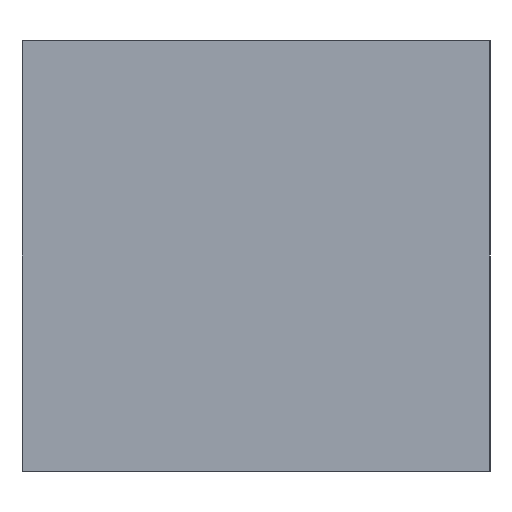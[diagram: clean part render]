
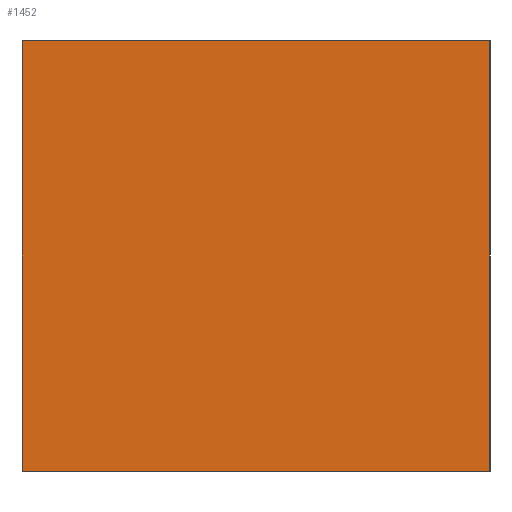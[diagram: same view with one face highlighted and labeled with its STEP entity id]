
A CAD part, left-side view. The second image highlights one B-rep face of the part: STEP entity #1452.
In plain terms, the highlighted planar face has unit normal (-1, 0, 0).
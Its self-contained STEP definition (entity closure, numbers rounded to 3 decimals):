
#22 = VERTEX_POINT('',#23);
#23 = CARTESIAN_POINT('',(33.5,23.,47.));
#32 = PLANE('',#33);
#33 = AXIS2_PLACEMENT_3D('',#34,#35,#36);
#34 = CARTESIAN_POINT('',(33.5,23.,47.));
#35 = DIRECTION('',(0.,0.,-1.));
#36 = DIRECTION('',(-1.,0.,0.));
#44 = PLANE('',#45);
#45 = AXIS2_PLACEMENT_3D('',#46,#47,#48);
#46 = CARTESIAN_POINT('',(33.5,23.,50.));
#47 = DIRECTION('',(0.,1.,0.));
#48 = DIRECTION('',(0.,0.,1.));
#85 = VERTEX_POINT('',#86);
#86 = CARTESIAN_POINT('',(33.5,48.,47.));
#100 = PLANE('',#101);
#101 = AXIS2_PLACEMENT_3D('',#102,#103,#104);
#102 = CARTESIAN_POINT('',(76.,48.,50.));
#103 = DIRECTION('',(0.,-1.,0.));
#104 = DIRECTION('',(0.,0.,-1.));
#112 = EDGE_CURVE('',#85,#22,#113,.T.);
#113 = SURFACE_CURVE('',#114,(#118,#125),.PCURVE_S1.);
#114 = LINE('',#115,#116);
#115 = CARTESIAN_POINT('',(33.5,48.,47.));
#116 = VECTOR('',#117,1.);
#117 = DIRECTION('',(0.,-1.,0.));
#118 = PCURVE('',#32,#119);
#119 = DEFINITIONAL_REPRESENTATION('',(#120),#124);
#120 = LINE('',#121,#122);
#121 = CARTESIAN_POINT('',(0.,25.));
#122 = VECTOR('',#123,1.);
#123 = DIRECTION('',(0.,-1.));
#124 = ( GEOMETRIC_REPRESENTATION_CONTEXT(2) 
PARAMETRIC_REPRESENTATION_CONTEXT() REPRESENTATION_CONTEXT('2D SPACE',''
  ) );
#125 = PCURVE('',#126,#131);
#126 = PLANE('',#127);
#127 = AXIS2_PLACEMENT_3D('',#128,#129,#130);
#128 = CARTESIAN_POINT('',(33.5,48.,50.));
#129 = DIRECTION('',(1.,0.,0.));
#130 = DIRECTION('',(0.,0.,1.));
#131 = DEFINITIONAL_REPRESENTATION('',(#132),#136);
#132 = LINE('',#133,#134);
#133 = CARTESIAN_POINT('',(-3.,0.));
#134 = VECTOR('',#135,1.);
#135 = DIRECTION('',(0.,1.));
#136 = ( GEOMETRIC_REPRESENTATION_CONTEXT(2) 
PARAMETRIC_REPRESENTATION_CONTEXT() REPRESENTATION_CONTEXT('2D SPACE',''
  ) );
#166 = VERTEX_POINT('',#167);
#167 = CARTESIAN_POINT('',(33.5,23.,70.));
#181 = PLANE('',#182);
#182 = AXIS2_PLACEMENT_3D('',#183,#184,#185);
#183 = CARTESIAN_POINT('',(33.5,23.,70.));
#184 = DIRECTION('',(0.,0.,1.));
#185 = DIRECTION('',(1.,0.,0.));
#193 = EDGE_CURVE('',#22,#166,#194,.T.);
#194 = SURFACE_CURVE('',#195,(#199,#206),.PCURVE_S1.);
#195 = LINE('',#196,#197);
#196 = CARTESIAN_POINT('',(33.5,23.,50.));
#197 = VECTOR('',#198,1.);
#198 = DIRECTION('',(0.,0.,1.));
#199 = PCURVE('',#44,#200);
#200 = DEFINITIONAL_REPRESENTATION('',(#201),#205);
#201 = LINE('',#202,#203);
#202 = CARTESIAN_POINT('',(0.,0.));
#203 = VECTOR('',#204,1.);
#204 = DIRECTION('',(1.,0.));
#205 = ( GEOMETRIC_REPRESENTATION_CONTEXT(2) 
PARAMETRIC_REPRESENTATION_CONTEXT() REPRESENTATION_CONTEXT('2D SPACE',''
  ) );
#206 = PCURVE('',#126,#207);
#207 = DEFINITIONAL_REPRESENTATION('',(#208),#212);
#208 = LINE('',#209,#210);
#209 = CARTESIAN_POINT('',(0.,25.));
#210 = VECTOR('',#211,1.);
#211 = DIRECTION('',(1.,0.));
#212 = ( GEOMETRIC_REPRESENTATION_CONTEXT(2) 
PARAMETRIC_REPRESENTATION_CONTEXT() REPRESENTATION_CONTEXT('2D SPACE',''
  ) );
#437 = EDGE_CURVE('',#166,#438,#440,.T.);
#438 = VERTEX_POINT('',#439);
#439 = CARTESIAN_POINT('',(33.5,48.,70.));
#440 = SURFACE_CURVE('',#441,(#445,#452),.PCURVE_S1.);
#441 = LINE('',#442,#443);
#442 = CARTESIAN_POINT('',(33.5,23.,70.));
#443 = VECTOR('',#444,1.);
#444 = DIRECTION('',(0.,1.,0.));
#445 = PCURVE('',#181,#446);
#446 = DEFINITIONAL_REPRESENTATION('',(#447),#451);
#447 = LINE('',#448,#449);
#448 = CARTESIAN_POINT('',(0.,0.));
#449 = VECTOR('',#450,1.);
#450 = DIRECTION('',(0.,1.));
#451 = ( GEOMETRIC_REPRESENTATION_CONTEXT(2) 
PARAMETRIC_REPRESENTATION_CONTEXT() REPRESENTATION_CONTEXT('2D SPACE',''
  ) );
#452 = PCURVE('',#126,#453);
#453 = DEFINITIONAL_REPRESENTATION('',(#454),#458);
#454 = LINE('',#455,#456);
#455 = CARTESIAN_POINT('',(20.,25.));
#456 = VECTOR('',#457,1.);
#457 = DIRECTION('',(0.,-1.));
#458 = ( GEOMETRIC_REPRESENTATION_CONTEXT(2) 
PARAMETRIC_REPRESENTATION_CONTEXT() REPRESENTATION_CONTEXT('2D SPACE',''
  ) );
#1425 = EDGE_CURVE('',#438,#85,#1426,.T.);
#1426 = SURFACE_CURVE('',#1427,(#1431,#1438),.PCURVE_S1.);
#1427 = LINE('',#1428,#1429);
#1428 = CARTESIAN_POINT('',(33.5,48.,50.));
#1429 = VECTOR('',#1430,1.);
#1430 = DIRECTION('',(0.,0.,-1.));
#1431 = PCURVE('',#100,#1432);
#1432 = DEFINITIONAL_REPRESENTATION('',(#1433),#1437);
#1433 = LINE('',#1434,#1435);
#1434 = CARTESIAN_POINT('',(0.,-42.5));
#1435 = VECTOR('',#1436,1.);
#1436 = DIRECTION('',(1.,0.));
#1437 = ( GEOMETRIC_REPRESENTATION_CONTEXT(2) 
PARAMETRIC_REPRESENTATION_CONTEXT() REPRESENTATION_CONTEXT('2D SPACE',''
  ) );
#1438 = PCURVE('',#126,#1439);
#1439 = DEFINITIONAL_REPRESENTATION('',(#1440),#1444);
#1440 = LINE('',#1441,#1442);
#1441 = CARTESIAN_POINT('',(0.,0.));
#1442 = VECTOR('',#1443,1.);
#1443 = DIRECTION('',(-1.,0.));
#1444 = ( GEOMETRIC_REPRESENTATION_CONTEXT(2) 
PARAMETRIC_REPRESENTATION_CONTEXT() REPRESENTATION_CONTEXT('2D SPACE',''
  ) );
#1452 = ADVANCED_FACE('',(#1453),#126,.F.);
#1453 = FACE_BOUND('',#1454,.T.);
#1454 = EDGE_LOOP('',(#1455,#1456,#1457,#1458));
#1455 = ORIENTED_EDGE('',*,*,#1425,.T.);
#1456 = ORIENTED_EDGE('',*,*,#112,.T.);
#1457 = ORIENTED_EDGE('',*,*,#193,.T.);
#1458 = ORIENTED_EDGE('',*,*,#437,.T.);
